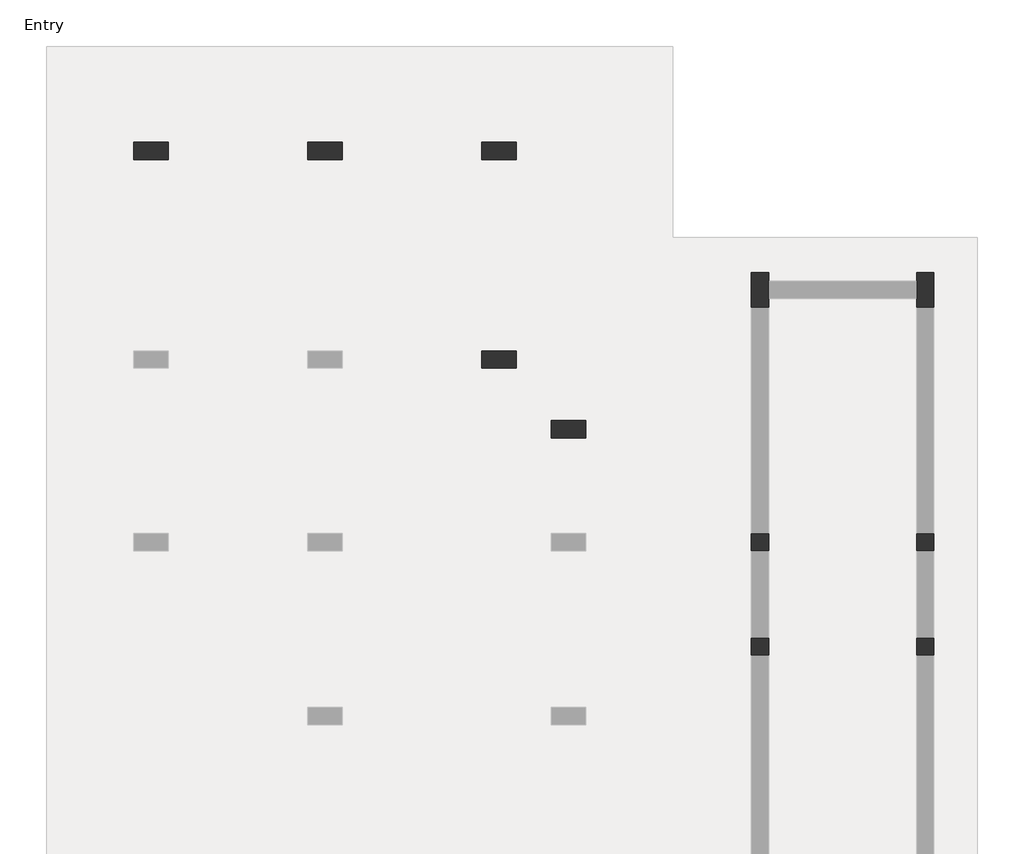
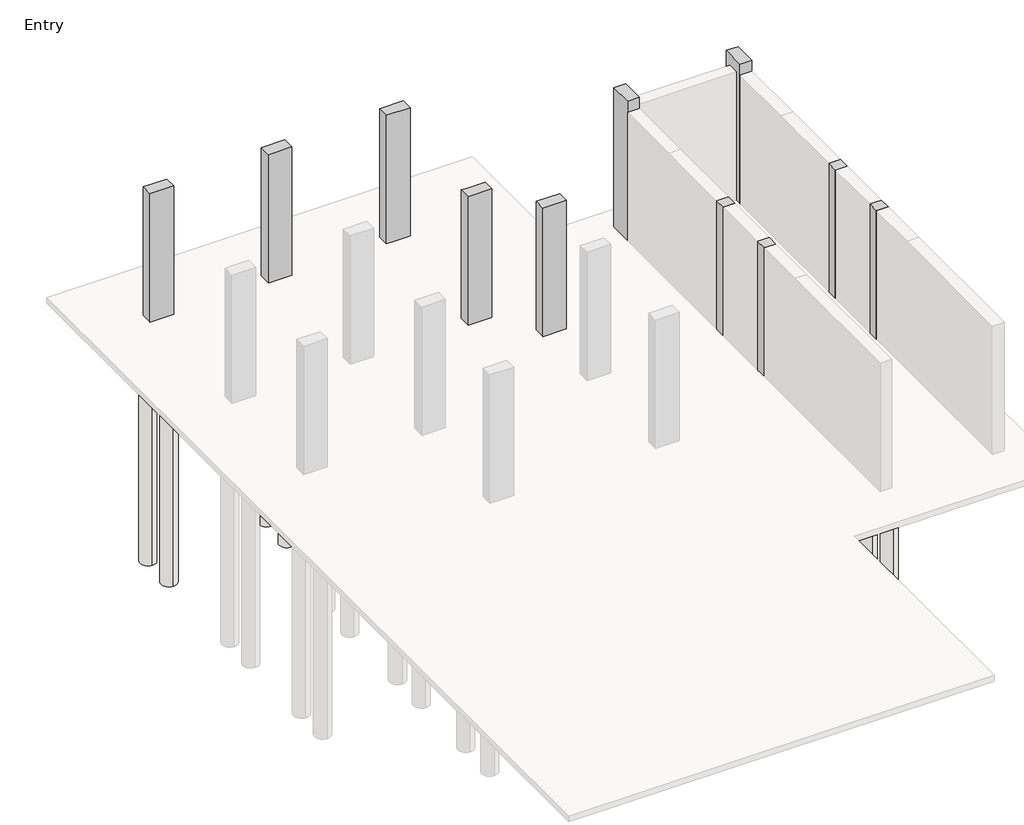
# One storey, part 3 of 3: 31 slabs, 11 columns, 5 footings.
"""IFC4 building model written with IfcOpenShell, lengths in millimetres."""

from ifc_helpers import new_model, si_unit, point, frame, frame_2d, origin, origin_with_axes, place, context, project, spatial, polyline, circle_curve, trimmed, segment, composite_curve, outline, extrude, faceted_brep, element, save

model = new_model("IFC4")

# Units and contexts
model_context = context("Model", 3, world=origin())
ifc_project = project(units=[si_unit("LENGTHUNIT", "METRE", prefix="MILLI")], contexts=[model_context])

# Site, building, storey
site = spatial("IfcSite", under=ifc_project)
building = spatial("IfcBuilding", under=site)
storey = spatial("IfcBuildingStorey", under=building, Name="Entry", Elevation=0.0)

# Columns
placement = place(None, origin())
element("IfcColumn", 1, ObjectType="Concrete-Rectangular-Column : 12 x 24", at=placement, inside=storey, context=model_context, shape_type="Brep", body=[
    faceted_brep([(-15967.1663981, 10274.1487848, 0.0), (-15357.5663981, 10274.1487848, 0.0), (-15357.5663981, 9969.3487848, 0.0), (-15967.1663981, 9969.3487848, 0.0), (-15967.1663981, 10274.1487848, 3505.2), (-15357.5663981, 10274.1487848, 3505.2), (-15357.5663981, 10274.1487848, 2895.6), (-15357.5663981, 9969.3487848, 3505.2), (-15357.5663981, 9969.3487848, 2895.6), (-15509.9663981, 9969.3487848, 3505.2), (-15814.7663981, 9969.3487848, 3505.2), (-15967.1663981, 9969.3487848, 3505.2)], [[[0, 1, 2, 3]], [[4, 5, 6, 1, 0]], [[5, 7, 8, 2, 1, 6]], [[7, 9, 10, 11, 3, 2, 8]], [[11, 4, 0, 3]], [[4, 11, 10, 9, 7, 5]]]),
])
element("IfcColumn", 2, ObjectType="Concrete-Rectangular-Column : 12 x 24", at=placement, inside=storey, context=model_context, shape_type="Brep", body=[
    faceted_brep([(-12919.1663981, 10274.1487848, 0.0), (-12309.5663981, 10274.1487848, 0.0), (-12309.5663981, 9969.3487848, 0.0), (-12919.1663981, 9969.3487848, 0.0), (-12919.1663981, 10274.1487848, 3505.2), (-12309.5663981, 10274.1487848, 3505.2), (-12309.5663981, 10274.1487848, 2895.6), (-12919.1663981, 10274.1487848, 2895.6), (-12309.5663981, 9969.3487848, 3505.2), (-12309.5663981, 9969.3487848, 2895.6), (-12461.9663981, 9969.3487848, 3505.2), (-12766.7663981, 9969.3487848, 3505.2), (-12919.1663981, 9969.3487848, 3505.2), (-12919.1663981, 9969.3487848, 2895.6)], [[[0, 1, 2, 3]], [[4, 5, 6, 1, 0, 7]], [[5, 8, 9, 2, 1, 6]], [[8, 10, 11, 12, 13, 3, 2, 9]], [[12, 4, 7, 0, 3, 13]], [[4, 12, 11, 10, 8, 5]]]),
])
element("IfcColumn", 3, ObjectType="Concrete-Rectangular-Column : 12 x 24", at=placement, inside=storey, context=model_context, shape_type="Brep", body=[
    faceted_brep([(-9871.1663981, 10274.1487848, 0.0), (-9261.5663981, 10274.1487848, 0.0), (-9261.5663981, 9969.3487848, 0.0), (-9871.1663981, 9969.3487848, 0.0), (-9871.1663981, 10274.1487848, 3505.2), (-9261.5663981, 10274.1487848, 3505.2), (-9871.1663981, 10274.1487848, 2895.6), (-9261.5663981, 9969.3487848, 3505.2), (-9413.9663981, 9969.3487848, 3505.2), (-9718.7663981, 9969.3487848, 3505.2), (-9871.1663981, 9969.3487848, 3505.2), (-9871.1663981, 9969.3487848, 2895.6)], [[[0, 1, 2, 3]], [[4, 5, 1, 0, 6]], [[5, 7, 2, 1]], [[7, 8, 9, 10, 11, 3, 2]], [[10, 4, 6, 0, 3, 11]], [[4, 10, 9, 8, 7, 5]]]),
])
element("IfcColumn", 4, ObjectType="Concrete-Rectangular-Column : 12 x 24", at=placement, inside=storey, context=model_context, shape_type="Brep", body=[
    faceted_brep([(-9871.1663981, 6616.5487848, 0.0), (-9261.5663981, 6616.5487848, 0.0), (-9261.5663981, 6311.7487848, 0.0), (-9871.1663981, 6311.7487848, 0.0), (-9871.1663981, 6616.5487848, 3505.2), (-9718.7663981, 6616.5487848, 3505.2), (-9413.9663981, 6616.5487848, 3505.2), (-9261.5663981, 6616.5487848, 3505.2), (-9871.1663981, 6616.5487848, 2895.6), (-9261.5663981, 6311.7487848, 3505.2), (-9413.9663981, 6311.7487848, 3505.2), (-9718.7663981, 6311.7487848, 3505.2), (-9871.1663981, 6311.7487848, 3505.2), (-9871.1663981, 6311.7487848, 2895.6)], [[[0, 1, 2, 3]], [[4, 5, 6, 7, 1, 0, 8]], [[7, 9, 2, 1]], [[9, 10, 11, 12, 13, 3, 2]], [[12, 4, 8, 0, 3, 13]], [[4, 12, 11, 10, 9, 7, 6, 5]]]),
])
element("IfcColumn", 5, ObjectType="Concrete-Rectangular-Column : 12 x 24", at=placement, inside=storey, context=model_context, shape_type="Brep", body=[
    faceted_brep([(-8651.9663981, 5397.3487848, 0.0), (-8042.3663981, 5397.3487848, 0.0), (-8042.3663981, 5092.5487848, 0.0), (-8651.9663981, 5092.5487848, 0.0), (-8651.9663981, 5397.3487848, 3505.2), (-8042.3663981, 5397.3487848, 3505.2), (-8651.9663981, 5397.3487848, 2895.6), (-8042.3663981, 5092.5487848, 3505.2), (-8194.7663981, 5092.5487848, 3505.2), (-8499.5663981, 5092.5487848, 3505.2), (-8651.9663981, 5092.5487848, 3505.2), (-8651.9663981, 5092.5487848, 2895.6)], [[[0, 1, 2, 3]], [[4, 5, 1, 0, 6]], [[5, 7, 2, 1]], [[7, 8, 9, 10, 11, 3, 2]], [[10, 4, 6, 0, 3, 11]], [[4, 10, 9, 8, 7, 5]]]),
])
element("IfcColumn", 6, ObjectType="Concrete-Rectangular-Column : 12 x 24", at=placement, inside=storey, context=model_context, shape_type="SweptSolid", body=[
    extrude(outline(polyline([(-5146.7663981, 3416.1487848), (-4841.9663981, 3416.1487848), (-4841.9663981, 3111.3487848), (-5146.7663981, 3111.3487848), (-5146.7663981, 3416.1487848)])), origin_with_axes(), (0.0, 0.0, 1.0), 3505.2),
])
element("IfcColumn", 7, ObjectType="Concrete-Rectangular-Column : 12 x 24", at=placement, inside=storey, context=model_context, shape_type="SweptSolid", body=[
    extrude(outline(polyline([(-2251.1663981, 3416.1487848), (-1946.3663981, 3416.1487848), (-1946.3663981, 3111.3487848), (-2251.1663981, 3111.3487848), (-2251.1663981, 3416.1487848)])), origin_with_axes(), (0.0, 0.0, 1.0), 3505.2),
])
element("IfcColumn", 8, ObjectType="Concrete-Rectangular-Column : 12 x 24", at=placement, inside=storey, context=model_context, shape_type="SweptSolid", body=[
    extrude(outline(polyline([(-5146.7663981, 1587.3487848), (-4841.9663981, 1587.3487848), (-4841.9663981, 1282.5487848), (-5146.7663981, 1282.5487848), (-5146.7663981, 1587.3487848)])), origin_with_axes(), (0.0, 0.0, 1.0), 3505.2),
])
element("IfcColumn", 9, ObjectType="Concrete-Rectangular-Column : 12 x 24", at=placement, inside=storey, context=model_context, shape_type="SweptSolid", body=[
    extrude(outline(polyline([(-2251.1663981, 1587.3487848), (-1946.3663981, 1587.3487848), (-1946.3663981, 1282.5487848), (-2251.1663981, 1282.5487848), (-2251.1663981, 1587.3487848)])), origin_with_axes(), (0.0, 0.0, 1.0), 3505.2),
])
element("IfcColumn", 10, ObjectType="Concrete-Rectangular-Column : 12 x 24", at=placement, inside=storey, context=model_context, shape_type="Brep", body=[
    faceted_brep([(-5146.7663981, 7378.5487848, 0.0), (-5146.7663981, 7988.1487848, 0.0), (-4841.9663981, 7988.1487848, 0.0), (-4841.9663981, 7835.7487848, 0.0), (-4841.9663981, 7530.9487848, 0.0), (-4841.9663981, 7378.5487848, 0.0), (-5146.7663981, 7378.5487848, 3810.0), (-5146.7663981, 7988.1487848, 3810.0), (-5146.7663981, 7378.5487848, 3505.2), (-4841.9663981, 7988.1487848, 3810.0), (-4841.9663981, 7378.5487848, 3810.0), (-4841.9663981, 7378.5487848, 3505.2)], [[[0, 1, 2, 3, 4, 5]], [[6, 7, 1, 0, 8]], [[7, 9, 2, 1]], [[9, 10, 11, 5, 4, 3, 2]], [[10, 6, 8, 0, 5, 11]], [[6, 10, 9, 7]]]),
])
element("IfcColumn", 11, ObjectType="Concrete-Rectangular-Column : 12 x 24", at=placement, inside=storey, context=model_context, shape_type="Brep", body=[
    faceted_brep([(-2251.1663981, 7378.5487848, 0.0), (-2251.1663981, 7530.9487848, 0.0), (-2251.1663981, 7835.7487848, 0.0), (-2251.1663981, 7988.1487848, 0.0), (-1946.3663981, 7988.1487848, 0.0), (-1946.3663981, 7378.5487848, 0.0), (-2251.1663981, 7378.5487848, 3810.0), (-2251.1663981, 7988.1487848, 3810.0), (-2251.1663981, 7378.5487848, 3505.2), (-1946.3663981, 7988.1487848, 3810.0), (-1946.3663981, 7378.5487848, 3810.0), (-1946.3663981, 7378.5487848, 3505.2)], [[[0, 1, 2, 3, 4, 5]], [[6, 7, 3, 2, 1, 0, 8]], [[7, 9, 4, 3]], [[9, 10, 11, 5, 4]], [[10, 6, 8, 0, 5, 11]], [[6, 10, 9, 7]]]),
])

# Footings
element("IfcFooting", 12, ObjectType="Bearing Footing - 36\" x 12\"", at=placement, inside=storey, context=model_context, shape_type="Brep", body=[
    faceted_brep([(-4841.9663981, 8140.5487848, -304.8), (-4841.9663981, 8089.7487848, -304.8), (-4841.9663981, 8089.7487848, -152.4), (-4841.9663981, 8140.5487848, -152.4), (-4841.9663981, 7276.9487848, -304.8), (-4841.9663981, 7226.1487848, -304.8), (-4841.9663981, 7226.1487848, -152.4), (-4841.9663981, 7276.9487848, -152.4), (-2251.1663981, 8089.7487848, -304.8), (-2251.1663981, 8140.5487848, -304.8), (-2251.1663981, 8140.5487848, -152.4), (-2251.1663981, 8089.7487848, -152.4), (-2251.1663981, 7226.1487848, -304.8), (-2251.1663981, 7276.9487848, -304.8), (-2251.1663981, 7276.9487848, -152.4), (-2251.1663981, 7226.1487848, -152.4), (-2873.4663981, 8089.7487848, -304.8), (-2873.4663981, 7276.9487848, -304.8), (-2555.9663981, 7226.1487848, -304.8), (-4537.1663981, 7226.1487848, -304.8), (-4219.6663981, 7276.9487848, -304.8), (-4219.6663981, 8089.7487848, -304.8), (-2555.9663981, 7226.1487848, -152.4), (-4537.1663981, 7226.1487848, -152.4), (-4219.6663981, 7276.9487848, -152.4), (-4219.6663981, 8089.7487848, -152.4), (-2873.4663981, 7276.9487848, -152.4), (-2873.4663981, 8089.7487848, -152.4)], [[[0, 1, 2, 3]], [[4, 5, 6, 7]], [[8, 9, 10, 11]], [[12, 13, 14, 15]], [[9, 0, 3, 10]], [[0, 9, 8, 16, 17, 13, 12, 18, 19, 5, 4, 20, 21, 1]], [[5, 19, 18, 12, 15, 22, 23, 6]], [[20, 4, 7, 24]], [[21, 20, 24, 25]], [[1, 21, 25, 2]], [[13, 17, 26, 14]], [[16, 8, 11, 27]], [[17, 16, 27, 26]], [[3, 2, 25, 24, 7, 6, 23, 22, 15, 14, 26, 27, 11, 10]]]),
])
element("IfcFooting", 13, ObjectType="Bearing Footing - 36\" x 12\"", at=placement, inside=storey, context=model_context, shape_type="SweptSolid", body=[
    extrude(outline(polyline([(-5451.5663981, 3416.1487848), (-5451.5663981, 7276.9487848), (-4841.9663981, 7276.9487848), (-4841.9663981, 7226.1487848), (-4537.1663981, 7226.1487848), (-4537.1663981, 3416.1487848), (-4587.9663981, 3416.1487848), (-4587.9663981, 4038.4487848), (-5400.7663981, 4038.4487848), (-5400.7663981, 3416.1487848), (-5451.5663981, 3416.1487848)])), frame((0.0, 0.0, -304.8), z_axis=(0.0, 0.0, 1.0), x_axis=(1.0, 0.0, 0.0)), (0.0, 0.0, 1.0), 152.4),
])
element("IfcFooting", 14, ObjectType="Bearing Footing - 36\" x 12\"", at=placement, inside=storey, context=model_context, shape_type="SweptSolid", body=[
    extrude(outline(polyline([(-1641.5663981, 7276.9487848), (-1641.5663981, 3416.1487848), (-1692.3663981, 3416.1487848), (-1692.3663981, 4038.4487848), (-2505.1663981, 4038.4487848), (-2505.1663981, 3416.1487848), (-2555.9663981, 3416.1487848), (-2555.9663981, 7226.1487848), (-2251.1663981, 7226.1487848), (-2251.1663981, 7276.9487848), (-1641.5663981, 7276.9487848)])), frame((0.0, 0.0, -304.8), z_axis=(0.0, 0.0, 1.0), x_axis=(1.0, 0.0, 0.0)), (0.0, 0.0, 1.0), 152.4),
])
element("IfcFooting", 15, ObjectType="Bearing Footing - 36\" x 12\"", at=placement, inside=storey, context=model_context, shape_type="SweptSolid", body=[
    extrude(outline(polyline([(-4537.1663981, 3111.3487848), (-4537.1663981, 1587.3487848), (-4587.9663981, 1587.3487848), (-4587.9663981, 2209.6487848), (-5400.7663981, 2209.6487848), (-5400.7663981, 1587.3487848), (-5451.5663981, 1587.3487848), (-5451.5663981, 3111.3487848), (-5400.7663981, 3111.3487848), (-5400.7663981, 2489.0487848), (-4587.9663981, 2489.0487848), (-4587.9663981, 3111.3487848), (-4537.1663981, 3111.3487848)])), frame((0.0, 0.0, -304.8), z_axis=(0.0, 0.0, 1.0), x_axis=(1.0, 0.0, 0.0)), (0.0, 0.0, 1.0), 152.4),
])
element("IfcFooting", 16, ObjectType="Bearing Footing - 36\" x 12\"", at=placement, inside=storey, context=model_context, shape_type="SweptSolid", body=[
    extrude(outline(polyline([(-1641.5663981, 3111.3487848), (-1641.5663981, 1587.3487848), (-1692.3663981, 1587.3487848), (-1692.3663981, 2209.6487848), (-2505.1663981, 2209.6487848), (-2505.1663981, 1587.3487848), (-2555.9663981, 1587.3487848), (-2555.9663981, 3111.3487848), (-2505.1663981, 3111.3487848), (-2505.1663981, 2489.0487848), (-1692.3663981, 2489.0487848), (-1692.3663981, 3111.3487848), (-1641.5663981, 3111.3487848)])), frame((0.0, 0.0, -304.8), z_axis=(0.0, 0.0, 1.0), x_axis=(1.0, 0.0, 0.0)), (0.0, 0.0, 1.0), 152.4),
])

# Slabs
element("IfcSlab", 17, ObjectType="Pile Cap-2 Pile : 31\"x61\"x35\"", at=placement, inside=storey, context=model_context, shape_type="SweptSolid", body=[
    extrude(outline(polyline([(-16068.7663981, 10896.4487848), (-15255.9663981, 10896.4487848), (-15255.9663981, 9347.0487848), (-16068.7663981, 9347.0487848), (-16068.7663981, 10896.4487848)])), frame((0.0, 0.0, -889.0), z_axis=(0.0, 0.0, 1.0), x_axis=(1.0, 0.0, 0.0)), (0.0, 0.0, 1.0), 736.6),
])
element("IfcSlab", 18, ObjectType="Pile Cap-2 Pile : 31\"x61\"x35\"", at=placement, inside=storey, context=model_context, shape_type="SweptSolid", body=[
    extrude(outline(polyline([(-13020.7663981, 10896.4487848), (-12207.9663981, 10896.4487848), (-12207.9663981, 9347.0487848), (-13020.7663981, 9347.0487848), (-13020.7663981, 10896.4487848)])), frame((0.0, 0.0, -889.0), z_axis=(0.0, 0.0, 1.0), x_axis=(1.0, 0.0, 0.0)), (0.0, 0.0, 1.0), 736.6),
])
element("IfcSlab", 19, ObjectType="Pile Cap-2 Pile : 31\"x61\"x35\"", at=placement, inside=storey, context=model_context, shape_type="SweptSolid", body=[
    extrude(outline(polyline([(-9972.7663981, 10896.4487848), (-9159.9663981, 10896.4487848), (-9159.9663981, 9347.0487848), (-9972.7663981, 9347.0487848), (-9972.7663981, 10896.4487848)])), frame((0.0, 0.0, -889.0), z_axis=(0.0, 0.0, 1.0), x_axis=(1.0, 0.0, 0.0)), (0.0, 0.0, 1.0), 736.6),
])
element("IfcSlab", 20, ObjectType="Pile Cap-2 Pile : 31\"x61\"x35\"", at=placement, inside=storey, context=model_context, shape_type="SweptSolid", body=[
    extrude(outline(polyline([(-9972.7663981, 7238.8487848), (-9159.9663981, 7238.8487848), (-9159.9663981, 5689.4487848), (-9972.7663981, 5689.4487848), (-9972.7663981, 7238.8487848)])), frame((0.0, 0.0, -889.0), z_axis=(0.0, 0.0, 1.0), x_axis=(1.0, 0.0, 0.0)), (0.0, 0.0, 1.0), 736.6),
])
element("IfcSlab", 21, ObjectType="Pile Cap-2 Pile : 31\"x61\"x35\"", at=placement, inside=storey, context=model_context, shape_type="Brep", body=[
    faceted_brep([(-5769.0663981, 7276.9487848, -889.0), (-5769.0663981, 8089.7487848, -889.0), (-4219.6663981, 8089.7487848, -889.0), (-4219.6663981, 7276.9487848, -889.0), (-4219.6663981, 7276.9487848, -304.8), (-4219.6663981, 7276.9487848, -152.4), (-4841.9663981, 7276.9487848, -152.4), (-5451.5663981, 7276.9487848, -152.4), (-5769.0663981, 7276.9487848, -152.4), (-4219.6663981, 8089.7487848, -304.8), (-4219.6663981, 8089.7487848, -152.4), (-5769.0663981, 8089.7487848, -152.4), (-4841.9663981, 8089.7487848, -152.4)], [[[0, 1, 2, 3]], [[0, 3, 4, 5, 6, 7, 8]], [[3, 2, 9, 10, 5, 4]], [[2, 1, 11, 12, 10, 9]], [[1, 0, 8, 11]], [[8, 7, 6, 5, 10, 12, 11]]]),
])
element("IfcSlab", 22, ObjectType="Pile Cap-2 Pile : 31\"x61\"x35\"", at=placement, inside=storey, context=model_context, shape_type="Brep", body=[
    faceted_brep([(-2873.4663981, 7276.9487848, -889.0), (-2873.4663981, 8089.7487848, -889.0), (-1324.0663981, 8089.7487848, -889.0), (-1324.0663981, 7276.9487848, -889.0), (-1324.0663981, 7276.9487848, -152.4), (-1641.5663981, 7276.9487848, -152.4), (-2251.1663981, 7276.9487848, -152.4), (-2873.4663981, 7276.9487848, -152.4), (-2873.4663981, 7276.9487848, -304.8), (-1324.0663981, 8089.7487848, -152.4), (-2873.4663981, 8089.7487848, -304.8), (-2873.4663981, 8089.7487848, -152.4), (-2251.1663981, 8089.7487848, -152.4)], [[[0, 1, 2, 3]], [[0, 3, 4, 5, 6, 7, 8]], [[3, 2, 9, 4]], [[2, 1, 10, 11, 12, 9]], [[1, 0, 8, 7, 11, 10]], [[7, 6, 5, 4, 9, 12, 11]]]),
])
element("IfcSlab", 23, ObjectType="Pile Cap-2 Pile : 31\"x61\"x35\"", at=placement, inside=storey, context=model_context, shape_type="Brep", body=[
    faceted_brep([(-5400.7663981, 4038.4487848, -889.0), (-4587.9663981, 4038.4487848, -889.0), (-4587.9663981, 2489.0487848, -889.0), (-5400.7663981, 2489.0487848, -889.0), (-5400.7663981, 2489.0487848, -304.8), (-5400.7663981, 2489.0487848, -152.4), (-5400.7663981, 3111.3487848, -152.4), (-5400.7663981, 3416.1487848, -152.4), (-5400.7663981, 4038.4487848, -152.4), (-5400.7663981, 4038.4487848, -304.8), (-4587.9663981, 2489.0487848, -304.8), (-4587.9663981, 2489.0487848, -152.4), (-4587.9663981, 4038.4487848, -304.8), (-4587.9663981, 4038.4487848, -152.4), (-4587.9663981, 3416.1487848, -152.4), (-4587.9663981, 3111.3487848, -152.4)], [[[0, 1, 2, 3]], [[0, 3, 4, 5, 6, 7, 8, 9]], [[3, 2, 10, 11, 5, 4]], [[2, 1, 12, 13, 14, 15, 11, 10]], [[1, 0, 9, 8, 13, 12]], [[8, 7, 6, 5, 11, 15, 14, 13]]]),
])
element("IfcSlab", 24, ObjectType="Pile Cap-2 Pile : 31\"x61\"x35\"", at=placement, inside=storey, context=model_context, shape_type="Brep", body=[
    faceted_brep([(-5400.7663981, 2209.6487848, -889.0), (-4587.9663981, 2209.6487848, -889.0), (-4587.9663981, 660.2487848, -889.0), (-5400.7663981, 660.2487848, -889.0), (-5400.7663981, 660.2487848, -304.8), (-5400.7663981, 660.2487848, -152.4), (-5400.7663981, 1282.5487848, -152.4), (-5400.7663981, 1587.3487848, -152.4), (-5400.7663981, 2209.6487848, -152.4), (-5400.7663981, 2209.6487848, -304.8), (-4587.9663981, 660.2487848, -304.8), (-4587.9663981, 660.2487848, -152.4), (-4587.9663981, 2209.6487848, -304.8), (-4587.9663981, 2209.6487848, -152.4), (-4587.9663981, 1587.3487848, -152.4), (-4587.9663981, 1282.5487848, -152.4)], [[[0, 1, 2, 3]], [[0, 3, 4, 5, 6, 7, 8, 9]], [[3, 2, 10, 11, 5, 4]], [[2, 1, 12, 13, 14, 15, 11, 10]], [[1, 0, 9, 8, 13, 12]], [[8, 7, 6, 5, 11, 15, 14, 13]]]),
])
element("IfcSlab", 25, ObjectType="Pile Cap-2 Pile : 31\"x61\"x35\"", at=placement, inside=storey, context=model_context, shape_type="Brep", body=[
    faceted_brep([(-2505.1663981, 4038.4487848, -889.0), (-1692.3663981, 4038.4487848, -889.0), (-1692.3663981, 2489.0487848, -889.0), (-2505.1663981, 2489.0487848, -889.0), (-2505.1663981, 2489.0487848, -304.8), (-2505.1663981, 2489.0487848, -152.4), (-2505.1663981, 3111.3487848, -152.4), (-2505.1663981, 3416.1487848, -152.4), (-2505.1663981, 4038.4487848, -152.4), (-2505.1663981, 4038.4487848, -304.8), (-1692.3663981, 2489.0487848, -304.8), (-1692.3663981, 2489.0487848, -152.4), (-1692.3663981, 4038.4487848, -304.8), (-1692.3663981, 4038.4487848, -152.4), (-1692.3663981, 3416.1487848, -152.4), (-1692.3663981, 3111.3487848, -152.4)], [[[0, 1, 2, 3]], [[0, 3, 4, 5, 6, 7, 8, 9]], [[3, 2, 10, 11, 5, 4]], [[2, 1, 12, 13, 14, 15, 11, 10]], [[1, 0, 9, 8, 13, 12]], [[8, 7, 6, 5, 11, 15, 14, 13]]]),
])
element("IfcSlab", 26, ObjectType="Pile Cap-2 Pile : 31\"x61\"x35\"", at=placement, inside=storey, context=model_context, shape_type="Brep", body=[
    faceted_brep([(-2505.1663981, 2209.6487848, -889.0), (-1692.3663981, 2209.6487848, -889.0), (-1692.3663981, 660.2487848, -889.0), (-2505.1663981, 660.2487848, -889.0), (-2505.1663981, 660.2487848, -304.8), (-2505.1663981, 660.2487848, -152.4), (-2505.1663981, 1282.5487848, -152.4), (-2505.1663981, 1587.3487848, -152.4), (-2505.1663981, 2209.6487848, -152.4), (-2505.1663981, 2209.6487848, -304.8), (-1692.3663981, 660.2487848, -304.8), (-1692.3663981, 660.2487848, -152.4), (-1692.3663981, 2209.6487848, -304.8), (-1692.3663981, 2209.6487848, -152.4), (-1692.3663981, 1587.3487848, -152.4), (-1692.3663981, 1282.5487848, -152.4)], [[[0, 1, 2, 3]], [[0, 3, 4, 5, 6, 7, 8, 9]], [[3, 2, 10, 11, 5, 4]], [[2, 1, 12, 13, 14, 15, 11, 10]], [[1, 0, 9, 8, 13, 12]], [[8, 7, 6, 5, 11, 15, 14, 13]]]),
])
element("IfcSlab", 27, ObjectType="Pile Cap-2 Pile : 31\"x61\"x35\"", at=placement, inside=storey, context=model_context, shape_type="SweptSolid", body=[
    extrude(outline(polyline([(-7940.7663981, 4470.2487848), (-8753.5663981, 4470.2487848), (-8753.5663981, 6019.6487848), (-7940.7663981, 6019.6487848), (-7940.7663981, 4470.2487848)])), frame((0.0, 0.0, -889.0), z_axis=(0.0, 0.0, 1.0), x_axis=(1.0, 0.0, 0.0)), (0.0, 0.0, 1.0), 736.6),
])
element("IfcSlab", 28, ObjectType="Pile-Steel Pipe : 16\" Diameter", at=placement, inside=storey, context=model_context, shape_type="SweptSolid", body=[
    extrude(outline(composite_curve([segment(trimmed(circle_curve(frame_2d((-15662.3663981, 9651.8487848)), 203.2), [point((-15662.3663981, 9448.6487848))], [point((-15662.3663981, 9855.0487848))], False, "CARTESIAN"), True, "CONTINUOUS"), segment(trimmed(circle_curve(frame_2d((-15662.3663981, 9651.8487848)), 203.2), [point((-15662.3663981, 9855.0487848))], [point((-15662.3663981, 9448.6487848))], False, "CARTESIAN"), True, "CONTINUOUS")], self_intersect=False)), frame((0.0, 0.0, -6985.0), z_axis=(0.0, 0.0, 1.0), x_axis=(1.0, 0.0, 0.0)), (0.0, 0.0, 1.0), 6096.0),
])
element("IfcSlab", 29, ObjectType="Pile-Steel Pipe : 16\" Diameter", at=placement, inside=storey, context=model_context, shape_type="SweptSolid", body=[
    extrude(outline(composite_curve([segment(trimmed(circle_curve(frame_2d((-15662.3663981, 10591.6487848)), 203.2), [point((-15662.3663981, 10388.4487848))], [point((-15662.3663981, 10794.8487848))], False, "CARTESIAN"), True, "CONTINUOUS"), segment(trimmed(circle_curve(frame_2d((-15662.3663981, 10591.6487848)), 203.2), [point((-15662.3663981, 10794.8487848))], [point((-15662.3663981, 10388.4487848))], False, "CARTESIAN"), True, "CONTINUOUS")], self_intersect=False)), frame((0.0, 0.0, -6985.0), z_axis=(0.0, 0.0, 1.0), x_axis=(1.0, 0.0, 0.0)), (0.0, 0.0, 1.0), 6096.0),
])
element("IfcSlab", 30, ObjectType="Pile-Steel Pipe : 16\" Diameter", at=placement, inside=storey, context=model_context, shape_type="SweptSolid", body=[
    extrude(outline(composite_curve([segment(trimmed(circle_curve(frame_2d((-12614.3663981, 9651.8487848)), 203.2), [point((-12614.3663981, 9448.6487848))], [point((-12614.3663981, 9855.0487848))], False, "CARTESIAN"), True, "CONTINUOUS"), segment(trimmed(circle_curve(frame_2d((-12614.3663981, 9651.8487848)), 203.2), [point((-12614.3663981, 9855.0487848))], [point((-12614.3663981, 9448.6487848))], False, "CARTESIAN"), True, "CONTINUOUS")], self_intersect=False)), frame((0.0, 0.0, -6985.0), z_axis=(0.0, 0.0, 1.0), x_axis=(1.0, 0.0, 0.0)), (0.0, 0.0, 1.0), 6096.0),
])
element("IfcSlab", 31, ObjectType="Pile-Steel Pipe : 16\" Diameter", at=placement, inside=storey, context=model_context, shape_type="SweptSolid", body=[
    extrude(outline(composite_curve([segment(trimmed(circle_curve(frame_2d((-12614.3663981, 10591.6487848)), 203.2), [point((-12614.3663981, 10388.4487848))], [point((-12614.3663981, 10794.8487848))], False, "CARTESIAN"), True, "CONTINUOUS"), segment(trimmed(circle_curve(frame_2d((-12614.3663981, 10591.6487848)), 203.2), [point((-12614.3663981, 10794.8487848))], [point((-12614.3663981, 10388.4487848))], False, "CARTESIAN"), True, "CONTINUOUS")], self_intersect=False)), frame((0.0, 0.0, -6985.0), z_axis=(0.0, 0.0, 1.0), x_axis=(1.0, 0.0, 0.0)), (0.0, 0.0, 1.0), 6096.0),
])
element("IfcSlab", 32, ObjectType="Pile-Steel Pipe : 16\" Diameter", at=placement, inside=storey, context=model_context, shape_type="SweptSolid", body=[
    extrude(outline(composite_curve([segment(trimmed(circle_curve(frame_2d((-9566.3663981, 9651.8487848)), 203.2), [point((-9566.3663981, 9448.6487848))], [point((-9566.3663981, 9855.0487848))], False, "CARTESIAN"), True, "CONTINUOUS"), segment(trimmed(circle_curve(frame_2d((-9566.3663981, 9651.8487848)), 203.2), [point((-9566.3663981, 9855.0487848))], [point((-9566.3663981, 9448.6487848))], False, "CARTESIAN"), True, "CONTINUOUS")], self_intersect=False)), frame((0.0, 0.0, -6985.0), z_axis=(0.0, 0.0, 1.0), x_axis=(1.0, 0.0, 0.0)), (0.0, 0.0, 1.0), 6096.0),
])
element("IfcSlab", 33, ObjectType="Pile-Steel Pipe : 16\" Diameter", at=placement, inside=storey, context=model_context, shape_type="SweptSolid", body=[
    extrude(outline(composite_curve([segment(trimmed(circle_curve(frame_2d((-9566.3663981, 10591.6487848)), 203.2), [point((-9566.3663981, 10388.4487848))], [point((-9566.3663981, 10794.8487848))], False, "CARTESIAN"), True, "CONTINUOUS"), segment(trimmed(circle_curve(frame_2d((-9566.3663981, 10591.6487848)), 203.2), [point((-9566.3663981, 10794.8487848))], [point((-9566.3663981, 10388.4487848))], False, "CARTESIAN"), True, "CONTINUOUS")], self_intersect=False)), frame((0.0, 0.0, -6985.0), z_axis=(0.0, 0.0, 1.0), x_axis=(1.0, 0.0, 0.0)), (0.0, 0.0, 1.0), 6096.0),
])
element("IfcSlab", 34, ObjectType="Pile-Steel Pipe : 16\" Diameter", at=placement, inside=storey, context=model_context, shape_type="SweptSolid", body=[
    extrude(outline(composite_curve([segment(trimmed(circle_curve(frame_2d((-9566.3663981, 6934.0487848)), 203.2), [point((-9566.3663981, 6730.8487848))], [point((-9566.3663981, 7137.2487848))], False, "CARTESIAN"), True, "CONTINUOUS"), segment(trimmed(circle_curve(frame_2d((-9566.3663981, 6934.0487848)), 203.2), [point((-9566.3663981, 7137.2487848))], [point((-9566.3663981, 6730.8487848))], False, "CARTESIAN"), True, "CONTINUOUS")], self_intersect=False)), frame((0.0, 0.0, -6985.0), z_axis=(0.0, 0.0, 1.0), x_axis=(1.0, 0.0, 0.0)), (0.0, 0.0, 1.0), 6096.0),
])
element("IfcSlab", 35, ObjectType="Pile-Steel Pipe : 16\" Diameter", at=placement, inside=storey, context=model_context, shape_type="SweptSolid", body=[
    extrude(outline(composite_curve([segment(trimmed(circle_curve(frame_2d((-4524.4663981, 7683.3487848)), 203.2), [point((-4321.2663981, 7683.3487848))], [point((-4727.6663981, 7683.3487848))], False, "CARTESIAN"), True, "CONTINUOUS"), segment(trimmed(circle_curve(frame_2d((-4524.4663981, 7683.3487848)), 203.2), [point((-4727.6663981, 7683.3487848))], [point((-4321.2663981, 7683.3487848))], False, "CARTESIAN"), True, "CONTINUOUS")], self_intersect=False)), frame((0.0, 0.0, -6985.0), z_axis=(0.0, 0.0, 1.0), x_axis=(1.0, 0.0, 0.0)), (0.0, 0.0, 1.0), 6096.0),
])
element("IfcSlab", 36, ObjectType="Pile-Steel Pipe : 16\" Diameter", at=placement, inside=storey, context=model_context, shape_type="SweptSolid", body=[
    extrude(outline(composite_curve([segment(trimmed(circle_curve(frame_2d((-5464.2663981, 7683.3487848)), 203.2), [point((-5261.0663981, 7683.3487848))], [point((-5667.4663981, 7683.3487848))], False, "CARTESIAN"), True, "CONTINUOUS"), segment(trimmed(circle_curve(frame_2d((-5464.2663981, 7683.3487848)), 203.2), [point((-5667.4663981, 7683.3487848))], [point((-5261.0663981, 7683.3487848))], False, "CARTESIAN"), True, "CONTINUOUS")], self_intersect=False)), frame((0.0, 0.0, -6985.0), z_axis=(0.0, 0.0, 1.0), x_axis=(1.0, 0.0, 0.0)), (0.0, 0.0, 1.0), 6096.0),
])
element("IfcSlab", 37, ObjectType="Pile-Steel Pipe : 16\" Diameter", at=placement, inside=storey, context=model_context, shape_type="SweptSolid", body=[
    extrude(outline(composite_curve([segment(trimmed(circle_curve(frame_2d((-1628.8663981, 7683.3487848)), 203.2), [point((-1425.6663981, 7683.3487848))], [point((-1832.0663981, 7683.3487848))], False, "CARTESIAN"), True, "CONTINUOUS"), segment(trimmed(circle_curve(frame_2d((-1628.8663981, 7683.3487848)), 203.2), [point((-1832.0663981, 7683.3487848))], [point((-1425.6663981, 7683.3487848))], False, "CARTESIAN"), True, "CONTINUOUS")], self_intersect=False)), frame((0.0, 0.0, -6985.0), z_axis=(0.0, 0.0, 1.0), x_axis=(1.0, 0.0, 0.0)), (0.0, 0.0, 1.0), 6096.0),
])
element("IfcSlab", 38, ObjectType="Pile-Steel Pipe : 16\" Diameter", at=placement, inside=storey, context=model_context, shape_type="SweptSolid", body=[
    extrude(outline(composite_curve([segment(trimmed(circle_curve(frame_2d((-2568.6663981, 7683.3487848)), 203.2), [point((-2365.4663981, 7683.3487848))], [point((-2771.8663981, 7683.3487848))], False, "CARTESIAN"), True, "CONTINUOUS"), segment(trimmed(circle_curve(frame_2d((-2568.6663981, 7683.3487848)), 203.2), [point((-2771.8663981, 7683.3487848))], [point((-2365.4663981, 7683.3487848))], False, "CARTESIAN"), True, "CONTINUOUS")], self_intersect=False)), frame((0.0, 0.0, -6985.0), z_axis=(0.0, 0.0, 1.0), x_axis=(1.0, 0.0, 0.0)), (0.0, 0.0, 1.0), 6096.0),
])
element("IfcSlab", 39, ObjectType="Pile-Steel Pipe : 16\" Diameter", at=placement, inside=storey, context=model_context, shape_type="SweptSolid", body=[
    extrude(outline(composite_curve([segment(trimmed(circle_curve(frame_2d((-4994.3663981, 2793.8487848)), 203.2), [point((-4994.3663981, 2590.6487848))], [point((-4994.3663981, 2997.0487848))], False, "CARTESIAN"), True, "CONTINUOUS"), segment(trimmed(circle_curve(frame_2d((-4994.3663981, 2793.8487848)), 203.2), [point((-4994.3663981, 2997.0487848))], [point((-4994.3663981, 2590.6487848))], False, "CARTESIAN"), True, "CONTINUOUS")], self_intersect=False)), frame((0.0, 0.0, -6985.0), z_axis=(0.0, 0.0, 1.0), x_axis=(1.0, 0.0, 0.0)), (0.0, 0.0, 1.0), 6096.0),
])
element("IfcSlab", 40, ObjectType="Pile-Steel Pipe : 16\" Diameter", at=placement, inside=storey, context=model_context, shape_type="SweptSolid", body=[
    extrude(outline(composite_curve([segment(trimmed(circle_curve(frame_2d((-4994.3663981, 3733.6487848)), 203.2), [point((-4994.3663981, 3530.4487848))], [point((-4994.3663981, 3936.8487848))], False, "CARTESIAN"), True, "CONTINUOUS"), segment(trimmed(circle_curve(frame_2d((-4994.3663981, 3733.6487848)), 203.2), [point((-4994.3663981, 3936.8487848))], [point((-4994.3663981, 3530.4487848))], False, "CARTESIAN"), True, "CONTINUOUS")], self_intersect=False)), frame((0.0, 0.0, -6985.0), z_axis=(0.0, 0.0, 1.0), x_axis=(1.0, 0.0, 0.0)), (0.0, 0.0, 1.0), 6096.0),
])
element("IfcSlab", 41, ObjectType="Pile-Steel Pipe : 16\" Diameter", at=placement, inside=storey, context=model_context, shape_type="SweptSolid", body=[
    extrude(outline(composite_curve([segment(trimmed(circle_curve(frame_2d((-4994.3663981, 965.0487848)), 203.2), [point((-4994.3663981, 761.8487848))], [point((-4994.3663981, 1168.2487848))], False, "CARTESIAN"), True, "CONTINUOUS"), segment(trimmed(circle_curve(frame_2d((-4994.3663981, 965.0487848)), 203.2), [point((-4994.3663981, 1168.2487848))], [point((-4994.3663981, 761.8487848))], False, "CARTESIAN"), True, "CONTINUOUS")], self_intersect=False)), frame((0.0, 0.0, -6985.0), z_axis=(0.0, 0.0, 1.0), x_axis=(1.0, 0.0, 0.0)), (0.0, 0.0, 1.0), 6096.0),
])
element("IfcSlab", 42, ObjectType="Pile-Steel Pipe : 16\" Diameter", at=placement, inside=storey, context=model_context, shape_type="SweptSolid", body=[
    extrude(outline(composite_curve([segment(trimmed(circle_curve(frame_2d((-4994.3663981, 1904.8487848)), 203.2), [point((-4994.3663981, 1701.6487848))], [point((-4994.3663981, 2108.0487848))], False, "CARTESIAN"), True, "CONTINUOUS"), segment(trimmed(circle_curve(frame_2d((-4994.3663981, 1904.8487848)), 203.2), [point((-4994.3663981, 2108.0487848))], [point((-4994.3663981, 1701.6487848))], False, "CARTESIAN"), True, "CONTINUOUS")], self_intersect=False)), frame((0.0, 0.0, -6985.0), z_axis=(0.0, 0.0, 1.0), x_axis=(1.0, 0.0, 0.0)), (0.0, 0.0, 1.0), 6096.0),
])
element("IfcSlab", 43, ObjectType="Pile-Steel Pipe : 16\" Diameter", at=placement, inside=storey, context=model_context, shape_type="SweptSolid", body=[
    extrude(outline(composite_curve([segment(trimmed(circle_curve(frame_2d((-2098.7663981, 2793.8487848)), 203.2), [point((-2098.7663981, 2590.6487848))], [point((-2098.7663981, 2997.0487848))], False, "CARTESIAN"), True, "CONTINUOUS"), segment(trimmed(circle_curve(frame_2d((-2098.7663981, 2793.8487848)), 203.2), [point((-2098.7663981, 2997.0487848))], [point((-2098.7663981, 2590.6487848))], False, "CARTESIAN"), True, "CONTINUOUS")], self_intersect=False)), frame((0.0, 0.0, -6985.0), z_axis=(0.0, 0.0, 1.0), x_axis=(1.0, 0.0, 0.0)), (0.0, 0.0, 1.0), 6096.0),
])
element("IfcSlab", 44, ObjectType="Pile-Steel Pipe : 16\" Diameter", at=placement, inside=storey, context=model_context, shape_type="SweptSolid", body=[
    extrude(outline(composite_curve([segment(trimmed(circle_curve(frame_2d((-2098.7663981, 3733.6487848)), 203.2), [point((-2098.7663981, 3530.4487848))], [point((-2098.7663981, 3936.8487848))], False, "CARTESIAN"), True, "CONTINUOUS"), segment(trimmed(circle_curve(frame_2d((-2098.7663981, 3733.6487848)), 203.2), [point((-2098.7663981, 3936.8487848))], [point((-2098.7663981, 3530.4487848))], False, "CARTESIAN"), True, "CONTINUOUS")], self_intersect=False)), frame((0.0, 0.0, -6985.0), z_axis=(0.0, 0.0, 1.0), x_axis=(1.0, 0.0, 0.0)), (0.0, 0.0, 1.0), 6096.0),
])
element("IfcSlab", 45, ObjectType="Pile-Steel Pipe : 16\" Diameter", at=placement, inside=storey, context=model_context, shape_type="SweptSolid", body=[
    extrude(outline(composite_curve([segment(trimmed(circle_curve(frame_2d((-2098.7663981, 965.0487848)), 203.2), [point((-2098.7663981, 761.8487848))], [point((-2098.7663981, 1168.2487848))], False, "CARTESIAN"), True, "CONTINUOUS"), segment(trimmed(circle_curve(frame_2d((-2098.7663981, 965.0487848)), 203.2), [point((-2098.7663981, 1168.2487848))], [point((-2098.7663981, 761.8487848))], False, "CARTESIAN"), True, "CONTINUOUS")], self_intersect=False)), frame((0.0, 0.0, -6985.0), z_axis=(0.0, 0.0, 1.0), x_axis=(1.0, 0.0, 0.0)), (0.0, 0.0, 1.0), 6096.0),
])
element("IfcSlab", 46, ObjectType="Pile-Steel Pipe : 16\" Diameter", at=placement, inside=storey, context=model_context, shape_type="SweptSolid", body=[
    extrude(outline(composite_curve([segment(trimmed(circle_curve(frame_2d((-2098.7663981, 1904.8487848)), 203.2), [point((-2098.7663981, 1701.6487848))], [point((-2098.7663981, 2108.0487848))], False, "CARTESIAN"), True, "CONTINUOUS"), segment(trimmed(circle_curve(frame_2d((-2098.7663981, 1904.8487848)), 203.2), [point((-2098.7663981, 2108.0487848))], [point((-2098.7663981, 1701.6487848))], False, "CARTESIAN"), True, "CONTINUOUS")], self_intersect=False)), frame((0.0, 0.0, -6985.0), z_axis=(0.0, 0.0, 1.0), x_axis=(1.0, 0.0, 0.0)), (0.0, 0.0, 1.0), 6096.0),
])
element("IfcSlab", 47, ObjectType="Pile-Steel Pipe : 16\" Diameter", at=placement, inside=storey, context=model_context, shape_type="SweptSolid", body=[
    extrude(outline(composite_curve([segment(trimmed(circle_curve(frame_2d((-8347.1663981, 5714.8487848)), 203.2), [point((-8347.1663981, 5918.0487848))], [point((-8347.1663981, 5511.6487848))], False, "CARTESIAN"), True, "CONTINUOUS"), segment(trimmed(circle_curve(frame_2d((-8347.1663981, 5714.8487848)), 203.2), [point((-8347.1663981, 5511.6487848))], [point((-8347.1663981, 5918.0487848))], False, "CARTESIAN"), True, "CONTINUOUS")], self_intersect=False)), frame((0.0, 0.0, -6985.0), z_axis=(0.0, 0.0, 1.0), x_axis=(1.0, 0.0, 0.0)), (0.0, 0.0, 1.0), 6096.0),
])

save(model, "model.ifc")
